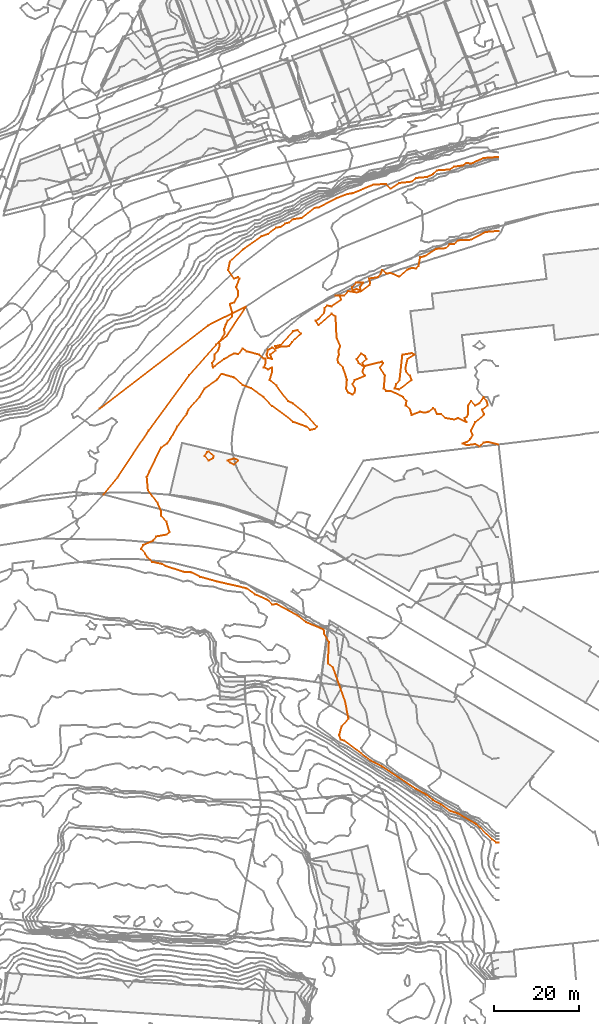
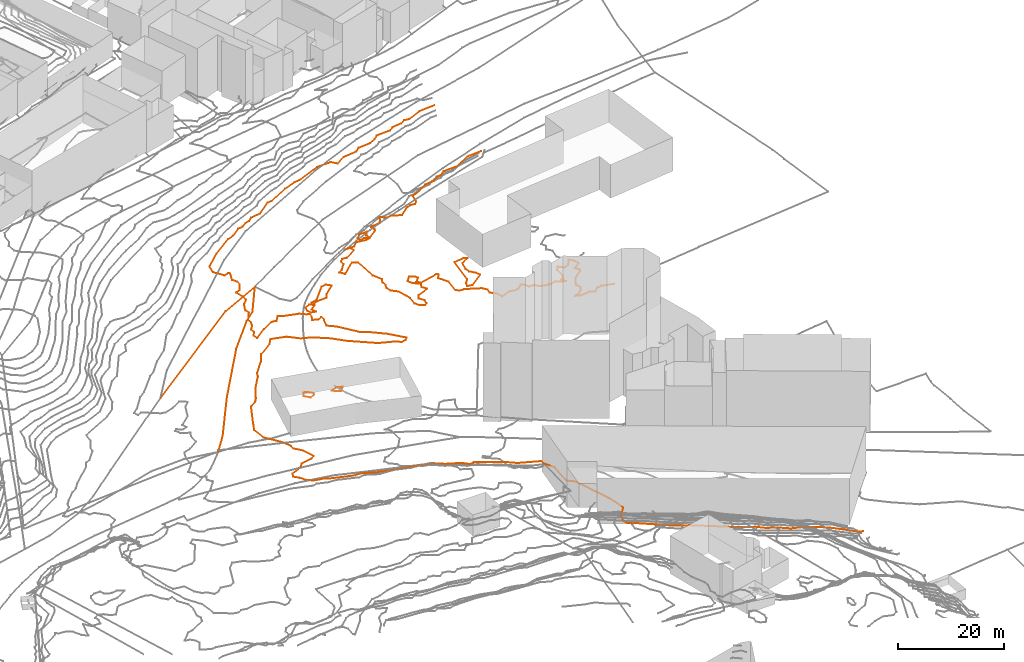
# Not in any storey, part 275 of 419: 9 proxies.
"""IFC2X3 model written with IfcOpenShell, lengths in metres."""

from ifc_helpers import new_model, entity, si_unit, frame, origin_with_axes, place, context, subcontext, project, element, save


model = new_model("IFC2X3")

# Units and contexts
model_context = context("Model", 3, precision=1e-05, world=origin_with_axes())
body_context = subcontext(model_context, "Body", "Model", "MODEL_VIEW")
ifc_project = project(units=[si_unit("AREAUNIT", "SQUARE_METRE"), si_unit("LENGTHUNIT", "METRE")], contexts=[model_context])

# Proxies
proxy_1_placement = place(None, frame((882.2920204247, 589.0976909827, 71.5), z_axis=(0.0, 0.0, 1.0), x_axis=(1.0, 0.0, 0.0)))
element("IfcBuildingElementProxy", 1, at=proxy_1_placement, Name="Route 20", ObjectType="NOTDEFINED", context=body_context, shape_type="GeometricCurveSet", body=[
    entity("IfcGeometricCurveSet", [entity("IfcPolyline", [entity("IfcCartesianPoint", [34.6000000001, 24.2000000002, -1.1]), entity("IfcCartesianPoint", [25.6000000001, 19.7000000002, -0.9]), entity("IfcCartesianPoint", [0.0, 0.0, 0.0])])]),
])
proxy_2_placement = place(None, frame((883.1920204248, 568.7976909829, 71.0), z_axis=(0.0, 0.0, 1.0), x_axis=(1.0, 0.0, 0.0)))
element("IfcBuildingElementProxy", 2, at=proxy_2_placement, Name="Route 34", ObjectType="NOTDEFINED", context=body_context, shape_type="GeometricCurveSet", body=[
    entity("IfcGeometricCurveSet", [entity("IfcPolyline", [entity("IfcCartesianPoint", [33.7000000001, 44.5, -0.6]), entity("IfcCartesianPoint", [29.2000000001, 37.5999999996, -0.6]), entity("IfcCartesianPoint", [26.7000000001, 35.5, -0.6]), entity("IfcCartesianPoint", [20.3, 28.2999999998, -0.4]), entity("IfcCartesianPoint", [10.7000000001, 15.1999999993, -0.1]), entity("IfcCartesianPoint", [3.3, 4.0, 0.2]), entity("IfcCartesianPoint", [0.0, 0.0, 0.0])])]),
])
proxy_3_placement = place(None, frame((923.8419727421, 603.8976909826, 70.0), z_axis=(0.0, 0.0, 1.0), x_axis=(1.0, 0.0, 0.0)))
element("IfcBuildingElementProxy", 3, at=proxy_3_placement, Name="Contour 70.0 m", ObjectType="NOTDEFINED", context=body_context, shape_type="GeometricCurveSet", body=[
    entity("IfcGeometricCurveSet", [entity("IfcPolyline", [entity("IfcCartesianPoint", [3.2500810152, 0.0, 0.0]), entity("IfcCartesianPoint", [1.2500476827, -0.1333163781, 0.0]), entity("IfcCartesianPoint", [0.2500476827, -0.5000499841, 0.0]), entity("IfcCartesianPoint", [0.0, 0.0, 0.0]), entity("IfcCartesianPoint", [1.2500476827, 0.285667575, 0.0]), entity("IfcCartesianPoint", [4.2500476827, 3.5555649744, 0.0]), entity("IfcCartesianPoint", [5.2500476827, 3.8333121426, 0.0]), entity("IfcCartesianPoint", [6.0833598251, 3.0, 0.0]), entity("IfcCartesianPoint", [3.9166295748, 1.0, 0.0]), entity("IfcCartesianPoint", [3.2500810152, 0.0, 0.0])])]),
])
proxy_4_placement = place(None, frame((921.8253503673, 601.8976909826, 70.0), z_axis=(0.0, 0.0, 1.0), x_axis=(1.0, 0.0, 0.0)))
element("IfcBuildingElementProxy", 4, at=proxy_4_placement, Name="Contour 70.0 m", ObjectType="NOTDEFINED", context=body_context, shape_type="GeometricCurveSet", body=[
    entity("IfcGeometricCurveSet", [entity("IfcPolyline", [entity("IfcCartesianPoint", [1.2667700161, -1.0, 0.0]), entity("IfcCartesianPoint", [0.2666700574, -0.7999694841, 0.0]), entity("IfcCartesianPoint", [0.0, 0.0, 0.0]), entity("IfcCartesianPoint", [0.2666700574, 1.1428882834, 0.0]), entity("IfcCartesianPoint", [1.2666700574, 1.666666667, 0.0]), entity("IfcCartesianPoint", [2.1237817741, 1.0, 0.0]), entity("IfcCartesianPoint", [0.8381141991, 0.0, 0.0]), entity("IfcCartesianPoint", [1.2667700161, -1.0, 0.0])])]),
])
proxy_5_placement = place(None, frame((952.0921203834, 593.8976909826, 70.0), z_axis=(0.0, 0.0, 1.0), x_axis=(1.0, 0.0, 0.0)))
element("IfcBuildingElementProxy", 5, at=proxy_5_placement, Name="Contour 70.0 m", ObjectType="NOTDEFINED", context=body_context, shape_type="GeometricCurveSet", body=[
    entity("IfcGeometricCurveSet", [entity("IfcPolyline", [entity("IfcCartesianPoint", [0.9999000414, -0.2000305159, 0.0]), entity("IfcCartesianPoint", [3.9998750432, 2.0, 0.0]), entity("IfcCartesianPoint", [3.5999305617, 3.0, 0.0]), entity("IfcCartesianPoint", [2.666566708, 4.0, 0.0]), entity("IfcCartesianPoint", [2.5453293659, 5.0, 0.0]), entity("IfcCartesianPoint", [2.9999000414, 7.0000166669, 0.0]), entity("IfcCartesianPoint", [4.6664819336, 8.0, 0.0]), entity("IfcCartesianPoint", [3.9999000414, 8.3332909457, 0.0]), entity("IfcCartesianPoint", [1.7999102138, 8.0, 0.0]), entity("IfcCartesianPoint", [1.1249238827, 2.0, 0.0]), entity("IfcCartesianPoint", [0.3331909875, 1.0, 0.0]), entity("IfcCartesianPoint", [0.0, 0.0, 0.0]), entity("IfcCartesianPoint", [0.9999000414, -0.2000305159, 0.0])])]),
])
proxy_6_placement = place(None, frame((933.3420681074, 609.8976909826, 70.0), z_axis=(0.0, 0.0, 1.0), x_axis=(1.0, 0.0, 0.0)))
element("IfcBuildingElementProxy", 6, at=proxy_6_placement, Name="Contour 70.0 m", ObjectType="NOTDEFINED", context=body_context, shape_type="GeometricCurveSet", body=[
    entity("IfcGeometricCurveSet", [entity("IfcPolyline", [entity("IfcCartesianPoint", [43.2499523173, -29.2941255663, 0.0]), entity("IfcCartesianPoint", [40.7499523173, -28.6250238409, 0.0]), entity("IfcCartesianPoint", [39.7499523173, -28.7999694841, 0.0]), entity("IfcCartesianPoint", [38.7499523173, -29.7500238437, 0.0]), entity("IfcCartesianPoint", [37.7499523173, -29.1428882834, 0.0]), entity("IfcCartesianPoint", [35.7499523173, -29.4285558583, 0.0]), entity("IfcCartesianPoint", [34.749938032, -29.0, 0.0]), entity("IfcCartesianPoint", [35.7499523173, -28.666666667, 0.0]), entity("IfcCartesianPoint", [36.607064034, -28.0, 0.0]), entity("IfcCartesianPoint", [37.149921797, -27.0, 0.0]), entity("IfcCartesianPoint", [36.7499273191, -26.0, 0.0]), entity("IfcCartesianPoint", [37.7498523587, -24.0, 0.0]), entity("IfcCartesianPoint", [39.7499523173, -22.3334181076, 0.0]), entity("IfcCartesianPoint", [39.8928406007, -22.0, 0.0]), entity("IfcCartesianPoint", [39.3499828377, -21.0, 0.0]), entity("IfcCartesianPoint", [40.7499189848, -20.0, 0.0]), entity("IfcCartesianPoint", [40.4999046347, -19.0, 0.0]), entity("IfcCartesianPoint", [39.7499523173, -18.000033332, 0.0]), entity("IfcCartesianPoint", [38.7499523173, -19.5000499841, 0.0]), entity("IfcCartesianPoint", [37.7499523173, -20.000033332, 0.0]), entity("IfcCartesianPoint", [36.7499523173, -19.0000500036, 0.0]), entity("IfcCartesianPoint", [36.0833704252, -20.0, 0.0]), entity("IfcCartesianPoint", [36.1249284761, -22.0, 0.0]), entity("IfcCartesianPoint", [35.7499523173, -22.7499523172, 0.0]), entity("IfcCartesianPoint", [35.2500023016, -23.0, 0.0]), entity("IfcCartesianPoint", [35.7499523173, -24.000033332, 0.0]), entity("IfcCartesianPoint", [33.7499523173, -23.0000500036, 0.0]), entity("IfcCartesianPoint", [32.7499523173, -23.3332909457, 0.0]), entity("IfcCartesianPoint", [30.7499523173, -23.0000999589, 0.0]), entity("IfcCartesianPoint", [29.7499523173, -22.000033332, 0.0]), entity("IfcCartesianPoint", [28.7498523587, -22.0, 0.0]), entity("IfcCartesianPoint", [28.249902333, -21.0, 0.0]), entity("IfcCartesianPoint", [27.7499523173, -20.6665818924, 0.0]), entity("IfcCartesianPoint", [26.7499523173, -21.5000250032, 0.0]), entity("IfcCartesianPoint", [25.7499523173, -21.7499523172, 0.0]), entity("IfcCartesianPoint", [24.7499523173, -21.5000250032, 0.0]), entity("IfcCartesianPoint", [22.7499523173, -22.2500476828, 0.0]), entity("IfcCartesianPoint", [22.4165342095, -21.0, 0.0]), entity("IfcCartesianPoint", [21.3499828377, -20.0, 0.0]), entity("IfcCartesianPoint", [21.4999046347, -19.0, 0.0]), entity("IfcCartesianPoint", [20.7499273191, -18.0, 0.0]), entity("IfcCartesianPoint", [17.7499523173, -16.60003052, 0.0]), entity("IfcCartesianPoint", [16.7499523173, -16.60003052, 0.0]), entity("IfcCartesianPoint", [16.149921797, -16.0, 0.0]), entity("IfcCartesianPoint", [16.4165342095, -13.0, 0.0]), entity("IfcCartesianPoint", [15.2499273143, -11.0, 0.0]), entity("IfcCartesianPoint", [16.0, -10.0, 0.0]), entity("IfcCartesianPoint", [15.7499523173, -9.6665818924, 0.0]), entity("IfcCartesianPoint", [11.7499523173, -10.6665818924, 0.0]), entity("IfcCartesianPoint", [11.0833704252, -10.0, 0.0]), entity("IfcCartesianPoint", [12.0356198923, -9.0, 0.0]), entity("IfcCartesianPoint", [11.7499523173, -8.3334181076, 0.0]), entity("IfcCartesianPoint", [10.7499523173, -7.7999694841, 0.0]), entity("IfcCartesianPoint", [9.7499856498, -9.0, 0.0]), entity("IfcCartesianPoint", [10.2500023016, -10.0, 0.0]), entity("IfcCartesianPoint", [11.4999046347, -11.0, 0.0]), entity("IfcCartesianPoint", [11.0833704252, -12.0, 0.0]), entity("IfcCartesianPoint", [11.7500023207, -13.0, 0.0]), entity("IfcCartesianPoint", [9.2500023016, -14.0, 0.0]), entity("IfcCartesianPoint", [8.750052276, -15.0, 0.0]), entity("IfcCartesianPoint", [9.4166613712, -16.0, 0.0]), entity("IfcCartesianPoint", [9.2499773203, -17.0, 0.0]), entity("IfcCartesianPoint", [8.7499523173, -17.39996948, 0.0]), entity("IfcCartesianPoint", [7.7499523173, -17.000033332, 0.0]), entity("IfcCartesianPoint", [7.2499423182, -16.0, 0.0]), entity("IfcCartesianPoint", [7.4166613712, -14.0, 0.0]), entity("IfcCartesianPoint", [7.149921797, -13.0, 0.0]), entity("IfcCartesianPoint", [6.4999046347, -11.0, 0.0]), entity("IfcCartesianPoint", [5.4166613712, -10.0, 0.0]), entity("IfcCartesianPoint", [5.1785081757, -9.0, 0.0]), entity("IfcCartesianPoint", [5.5499218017, -8.0, 0.0]), entity("IfcCartesianPoint", [5.4499599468, -7.0, 0.0]), entity("IfcCartesianPoint", [5.8749761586, -6.0, 0.0]), entity("IfcCartesianPoint", [4.9999284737, -4.0, 0.0]), entity("IfcCartesianPoint", [4.7499356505, 1.0, 0.0]), entity("IfcCartesianPoint", [3.7499523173, 1.666666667, 0.0]), entity("IfcCartesianPoint", [0.7499523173, -1.0000166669, 0.0]), entity("IfcCartesianPoint", [0.0, 0.0, 0.0]), entity("IfcCartesianPoint", [0.7499523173, 0.3749761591, 0.0]), entity("IfcCartesianPoint", [2.0833704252, 2.0, 0.0]), entity("IfcCartesianPoint", [2.1135949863, 3.0, 0.0]), entity("IfcCartesianPoint", [2.7499523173, 3.5833174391, 0.0]), entity("IfcCartesianPoint", [3.7499523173, 3.4285558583, 0.0]), entity("IfcCartesianPoint", [6.0832432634, 5.0, 0.0]), entity("IfcCartesianPoint", [5.7499523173, 5.9999499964, 0.0]), entity("IfcCartesianPoint", [4.7499470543, 6.0, 0.0]), entity("IfcCartesianPoint", [6.7499523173, 6.0000083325, 0.0]), entity("IfcCartesianPoint", [7.7499523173, 7.0277836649, 0.0]), entity("IfcCartesianPoint", [9.7499523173, 6.6922941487, 0.0]), entity("IfcCartesianPoint", [10.7499273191, 7.0, 0.0]), entity("IfcCartesianPoint", [9.7499523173, 7.4999875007, 0.0]), entity("IfcCartesianPoint", [8.7499523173, 7.2000305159, 0.0]), entity("IfcCartesianPoint", [8.6473857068, 8.0, 0.0]), entity("IfcCartesianPoint", [9.6499548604, 9.0, 0.0]), entity("IfcCartesianPoint", [11.2499773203, 9.0, 0.0]), entity("IfcCartesianPoint", [10.5499218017, 8.0, 0.0]), entity("IfcCartesianPoint", [10.7499523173, 7.0000999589, 0.0]), entity("IfcCartesianPoint", [12.7499523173, 8.5000250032, 0.0]), entity("IfcCartesianPoint", [12.9317515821, 9.0, 0.0]), entity("IfcCartesianPoint", [12.6999427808, 10.0, 0.0]), entity("IfcCartesianPoint", [14.7499523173, 10.333333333, 0.0]), entity("IfcCartesianPoint", [15.3499370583, 11.0, 0.0]), entity("IfcCartesianPoint", [15.7499523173, 12.0434808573, 0.0]), entity("IfcCartesianPoint", [16.7499523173, 11.1428519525, 0.0]), entity("IfcCartesianPoint", [17.7499523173, 11.3181786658, 0.0]), entity("IfcCartesianPoint", [19.7499523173, 10.4285714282, 0.0]), entity("IfcCartesianPoint", [21.7499523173, 12.1600036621, 0.0]), entity("IfcCartesianPoint", [22.7499523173, 12.4666598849, 0.0]), entity("IfcCartesianPoint", [23.7499523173, 12.3823489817, 0.0]), entity("IfcCartesianPoint", [24.3499523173, 13.0, 0.0]), entity("IfcCartesianPoint", [24.7499523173, 15.0250052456, 0.0]), entity("IfcCartesianPoint", [25.7499523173, 15.2692313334, 0.0]), entity("IfcCartesianPoint", [28.5647587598, 17.0, 0.0]), entity("IfcCartesianPoint", [30.7499523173, 17.1609183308, 0.0]), entity("IfcCartesianPoint", [31.7499523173, 18.1640619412, 0.0]), entity("IfcCartesianPoint", [32.7499523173, 18.1739113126, 0.0]), entity("IfcCartesianPoint", [33.7499523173, 19.0221252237, 0.0]), entity("IfcCartesianPoint", [36.7499523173, 19.1679992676, 0.0]), entity("IfcCartesianPoint", [40.204488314, 21.0, 0.0]), entity("IfcCartesianPoint", [43.2499523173, 21.2543869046, 0.0])])]),
])
proxy_7_placement = place(None, frame((907.0919954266, 577.8976909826, 70.0), z_axis=(0.0, 0.0, 1.0), x_axis=(1.0, 0.0, 0.0)))
element("IfcBuildingElementProxy", 7, at=proxy_7_placement, Name="Contour 70.0 m", ObjectType="NOTDEFINED", context=body_context, shape_type="GeometricCurveSet", body=[
    entity("IfcGeometricCurveSet", [entity("IfcPolyline", [entity("IfcCartesianPoint", [1.0001249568, -1.0, 0.0]), entity("IfcCartesianPoint", [0.0, 0.0, 0.0]), entity("IfcCartesianPoint", [0.6250488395, 1.0, 0.0]), entity("IfcCartesianPoint", [1.0000249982, 1.0857111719, 0.0]), entity("IfcCartesianPoint", [2.1667128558, 0.0, 0.0]), entity("IfcCartesianPoint", [2.0000249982, -0.5000499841, 0.0]), entity("IfcCartesianPoint", [1.0001249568, -1.0, 0.0])])]),
])
proxy_8_placement = place(None, frame((912.5919954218, 576.8976909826, 70.0), z_axis=(0.0, 0.0, 1.0), x_axis=(1.0, 0.0, 0.0)))
element("IfcBuildingElementProxy", 8, at=proxy_8_placement, Name="Contour 70.0 m", ObjectType="NOTDEFINED", context=body_context, shape_type="GeometricCurveSet", body=[
    entity("IfcGeometricCurveSet", [entity("IfcPolyline", [entity("IfcCartesianPoint", [1.5000416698, -1.0, 0.0]), entity("IfcCartesianPoint", [0.500025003, -0.5000250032, 0.0]), entity("IfcCartesianPoint", [0.0, 0.0, 0.0]), entity("IfcCartesianPoint", [1.500025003, 0.4545706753, 0.0]), entity("IfcCartesianPoint", [2.500025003, 1.99983e-05, 0.0]), entity("IfcCartesianPoint", [1.5000416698, -1.0, 0.0])])]),
])
proxy_9_placement = place(None, frame((892.0920404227, 555.8976909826, 70.0), z_axis=(0.0, 0.0, 1.0), x_axis=(1.0, 0.0, 0.0)))
element("IfcBuildingElementProxy", 9, at=proxy_9_placement, Name="Contour 70.0 m", ObjectType="NOTDEFINED", context=body_context, shape_type="GeometricCurveSet", body=[
    entity("IfcGeometricCurveSet", [entity("IfcPolyline", [entity("IfcCartesianPoint", [84.4999800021, 92.7461303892, 0.0]), entity("IfcCartesianPoint", [80.9999800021, 92.4945064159, 0.0]), entity("IfcCartesianPoint", [77.9999800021, 91.1460644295, 0.0]), entity("IfcCartesianPoint", [76.9999800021, 91.3394508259, 0.0]), entity("IfcCartesianPoint", [75.9999800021, 90.7210296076, 0.0]), entity("IfcCartesianPoint", [73.9999800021, 90.445453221, 0.0]), entity("IfcCartesianPoint", [72.9999800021, 89.7843127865, 0.0]), entity("IfcCartesianPoint", [69.9999800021, 89.5742580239, 0.0]), entity("IfcCartesianPoint", [68.9999800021, 88.6935500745, 0.0]), entity("IfcCartesianPoint", [67.608674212, 88.0, 0.0]), entity("IfcCartesianPoint", [64.9999800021, 87.7666680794, 0.0]), entity("IfcCartesianPoint", [63.9999800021, 86.8992270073, 0.0]), entity("IfcCartesianPoint", [60.9999800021, 86.5925967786, 0.0]), entity("IfcCartesianPoint", [58.9999800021, 85.2500476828, 0.0]), entity("IfcCartesianPoint", [57.9999800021, 86.3332909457, 0.0]), entity("IfcCartesianPoint", [54.9999800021, 86.2258072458, 0.0]), entity("IfcCartesianPoint", [49.9999800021, 84.1499961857, 0.0]), entity("IfcCartesianPoint", [48.8332921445, 84.0, 0.0]), entity("IfcCartesianPoint", [46.2000105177, 83.0, 0.0]), entity("IfcCartesianPoint", [41.9999800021, 80.8181786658, 0.0]), entity("IfcCartesianPoint", [40.9999800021, 80.7058744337, 0.0]), entity("IfcCartesianPoint", [37.9999800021, 78.3281238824, 0.0]), entity("IfcCartesianPoint", [35.857120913, 78.0, 0.0]), entity("IfcCartesianPoint", [34.9999800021, 77.2500029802, 0.0]), entity("IfcCartesianPoint", [34.1110722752, 77.0, 0.0]), entity("IfcCartesianPoint", [32.9999800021, 76.1923099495, 0.0]), entity("IfcCartesianPoint", [31.9310244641, 76.0, 0.0]), entity("IfcCartesianPoint", [29.9999800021, 74.5555524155, 0.0]), entity("IfcCartesianPoint", [28.4999871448, 74.0, 0.0]), entity("IfcCartesianPoint", [24.2499800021, 71.0, 0.0]), entity("IfcCartesianPoint", [20.999990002, 68.0, 0.0]), entity("IfcCartesianPoint", [20.6000105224, 66.0, 0.0]), entity("IfcCartesianPoint", [21.9999800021, 64.0000249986, 0.0]), entity("IfcCartesianPoint", [22.9999800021, 64.3334181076, 0.0]), entity("IfcCartesianPoint", [23.2500276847, 64.0, 0.0]), entity("IfcCartesianPoint", [22.5000299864, 62.0, 0.0]), entity("IfcCartesianPoint", [23.0000050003, 61.0, 0.0]), entity("IfcCartesianPoint", [23.0000050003, 60.0, 0.0]), entity("IfcCartesianPoint", [21.9999800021, 58.3334181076, 0.0]), entity("IfcCartesianPoint", [21.0000799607, 58.0, 0.0]), entity("IfcCartesianPoint", [21.5714241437, 56.0, 0.0]), entity("IfcCartesianPoint", [21.4999966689, 55.0, 0.0]), entity("IfcCartesianPoint", [20.4999966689, 54.0, 0.0]), entity("IfcCartesianPoint", [19.9999800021, 52.999966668, 0.0]), entity("IfcCartesianPoint", [19.6250038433, 52.0, 0.0]), entity("IfcCartesianPoint", [19.7999494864, 51.0, 0.0]), entity("IfcCartesianPoint", [18.4999966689, 49.0, 0.0]), entity("IfcCartesianPoint", [18.5714241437, 48.0, 0.0]), entity("IfcCartesianPoint", [18.2000105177, 47.0, 0.0]), entity("IfcCartesianPoint", [17.3999494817, 46.0, 0.0]), entity("IfcCartesianPoint", [17.4285358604, 45.0, 0.0]), entity("IfcCartesianPoint", [16.8332921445, 44.0, 0.0]), entity("IfcCartesianPoint", [16.9999800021, 43.0000999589, 0.0]), entity("IfcCartesianPoint", [19.6250038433, 45.0, 0.0]), entity("IfcCartesianPoint", [21.9999800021, 46.2857220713, 0.0]), entity("IfcCartesianPoint", [22.9999800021, 46.1000228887, 0.0]), entity("IfcCartesianPoint", [23.9999800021, 47.39996948, 0.0]), entity("IfcCartesianPoint", [24.9999800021, 46.7778060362, 0.0]), entity("IfcCartesianPoint", [27.8570917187, 46.0, 0.0]), entity("IfcCartesianPoint", [28.9999800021, 45.0833492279, 0.0]), entity("IfcCartesianPoint", [29.5000299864, 45.0, 0.0]), entity("IfcCartesianPoint", [29.5000299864, 44.0, 0.0]), entity("IfcCartesianPoint", [29.0000300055, 43.0, 0.0]), entity("IfcCartesianPoint", [29.9999800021, 42.5000250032, 0.0]), entity("IfcCartesianPoint", [30.9999800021, 43.0000999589, 0.0]), entity("IfcCartesianPoint", [31.0, 42.0, 0.0]), entity("IfcCartesianPoint", [30.3999494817, 40.0, 0.0]), entity("IfcCartesianPoint", [31.9999800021, 38.6665818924, 0.0]), entity("IfcCartesianPoint", [34.8000105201, 35.0, 0.0]), entity("IfcCartesianPoint", [35.9999800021, 34.4000152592, 0.0]), entity("IfcCartesianPoint", [38.8888500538, 32.0, 0.0]), entity("IfcCartesianPoint", [41.5714241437, 29.0, 0.0]), entity("IfcCartesianPoint", [40.9999800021, 28.4285558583, 0.0]), entity("IfcCartesianPoint", [39.9999800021, 28.2221939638, 0.0]), entity("IfcCartesianPoint", [38.9999633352, 29.0, 0.0]), entity("IfcCartesianPoint", [35.9999800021, 30.1110922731, 0.0]), entity("IfcCartesianPoint", [30.9999800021, 33.8888700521, 0.0]), entity("IfcCartesianPoint", [28.9999800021, 35.9565130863, 0.0]), entity("IfcCartesianPoint", [25.9999800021, 38.0454640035, 0.0]), entity("IfcCartesianPoint", [23.9999800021, 38.799987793, 0.0]), entity("IfcCartesianPoint", [21.9999800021, 40.6111134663, 0.0]), entity("IfcCartesianPoint", [18.9999800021, 41.4666598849, 0.0]), entity("IfcCartesianPoint", [17.9999800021, 40.0769366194, 0.0]), entity("IfcCartesianPoint", [14.9999800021, 37.9999909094, 0.0]), entity("IfcCartesianPoint", [13.7857020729, 36.0, 0.0]), entity("IfcCartesianPoint", [11.1922978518, 33.0, 0.0]), entity("IfcCartesianPoint", [10.7999800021, 32.0, 0.0]), entity("IfcCartesianPoint", [8.5624710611, 29.0, 0.0]), entity("IfcCartesianPoint", [6.8918702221, 26.0, 0.0]), entity("IfcCartesianPoint", [6.1666396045, 25.0, 0.0]), entity("IfcCartesianPoint", [4.6980899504, 24.0, 0.0]), entity("IfcCartesianPoint", [1.9999800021, 18.4545359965, 0.0]), entity("IfcCartesianPoint", [1.3571189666, 17.0, 0.0]), entity("IfcCartesianPoint", [1.6333150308, 14.0, 0.0]), entity("IfcCartesianPoint", [3.8749561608, 11.0, 0.0]), entity("IfcCartesianPoint", [4.7499323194, 9.0, 0.0]), entity("IfcCartesianPoint", [4.7143124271, 8.0, 0.0]), entity("IfcCartesianPoint", [5.9999800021, 6.5000499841, 0.0]), entity("IfcCartesianPoint", [6.7500038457, 4.0, 0.0]), entity("IfcCartesianPoint", [5.9999800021, 3.4545706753, 0.0]), entity("IfcCartesianPoint", [3.6000105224, 3.0, 0.0]), entity("IfcCartesianPoint", [2.8332921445, 2.0, 0.0]), entity("IfcCartesianPoint", [0.500005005, 1.0, 0.0]), entity("IfcCartesianPoint", [0.0, 0.0, 0.0]), entity("IfcCartesianPoint", [1.0, -1.0, 0.0]), entity("IfcCartesianPoint", [1.4999966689, -2.0, 0.0]), entity("IfcCartesianPoint", [2.6666466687, -3.0, 0.0]), entity("IfcCartesianPoint", [4.9999800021, -3.4999961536, 0.0]), entity("IfcCartesianPoint", [5.8124829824, -4.0, 0.0]), entity("IfcCartesianPoint", [9.9999800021, -5.3499971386, 0.0]), entity("IfcCartesianPoint", [11.9999800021, -5.4705891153, 0.0]), entity("IfcCartesianPoint", [13.9999800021, -6.5348911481, 0.0]), entity("IfcCartesianPoint", [17.9999800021, -7.6571444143, 0.0]), entity("IfcCartesianPoint", [24.9999800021, -9.2605032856, 0.0]), entity("IfcCartesianPoint", [26.9999800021, -10.695239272, 0.0]), entity("IfcCartesianPoint", [29.8965353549, -12.0, 0.0]), entity("IfcCartesianPoint", [30.9999800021, -13.0659316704, 0.0]), entity("IfcCartesianPoint", [32.081952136, -13.0, 0.0]), entity("IfcCartesianPoint", [36.9999800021, -15.6913041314, 0.0]), entity("IfcCartesianPoint", [38.9999800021, -17.292451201, 0.0]), entity("IfcCartesianPoint", [43.2156665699, -19.0, 0.0]), entity("IfcCartesianPoint", [43.3142665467, -20.0, 0.0]), entity("IfcCartesianPoint", [44.419978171, -22.0, 0.0]), entity("IfcCartesianPoint", [44.1764453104, -27.0, 0.0]), entity("IfcCartesianPoint", [45.4166440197, -28.0, 0.0]), entity("IfcCartesianPoint", [48.2857020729, -36.0, 0.0]), entity("IfcCartesianPoint", [49.0344700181, -40.0, 0.0]), entity("IfcCartesianPoint", [47.3999800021, -42.0, 0.0]), entity("IfcCartesianPoint", [46.8666636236, -44.0, 0.0]), entity("IfcCartesianPoint", [47.2307447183, -45.0, 0.0]), entity("IfcCartesianPoint", [47.9999800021, -45.285711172, 0.0]), entity("IfcCartesianPoint", [54.3144961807, -50.0, 0.0]), entity("IfcCartesianPoint", [56.9999800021, -51.3894722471, 0.0]), entity("IfcCartesianPoint", [64.9999800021, -56.7660808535, 0.0]), entity("IfcCartesianPoint", [67.4382502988, -58.0, 0.0]), entity("IfcCartesianPoint", [68.9999800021, -59.3424659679, 0.0]), entity("IfcCartesianPoint", [70.9999800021, -60.3372774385, 0.0]), entity("IfcCartesianPoint", [72.9999800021, -61.8333342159, 0.0]), entity("IfcCartesianPoint", [74.9999800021, -62.5353534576, 0.0]), entity("IfcCartesianPoint", [79.2105065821, -65.0, 0.0]), entity("IfcCartesianPoint", [82.9999800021, -68.6259551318, 0.0]), entity("IfcCartesianPoint", [83.9999800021, -69.399998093, 0.0]), entity("IfcCartesianPoint", [84.4999800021, -69.399998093, 0.0])])]),
])

save(model, "model.ifc")
